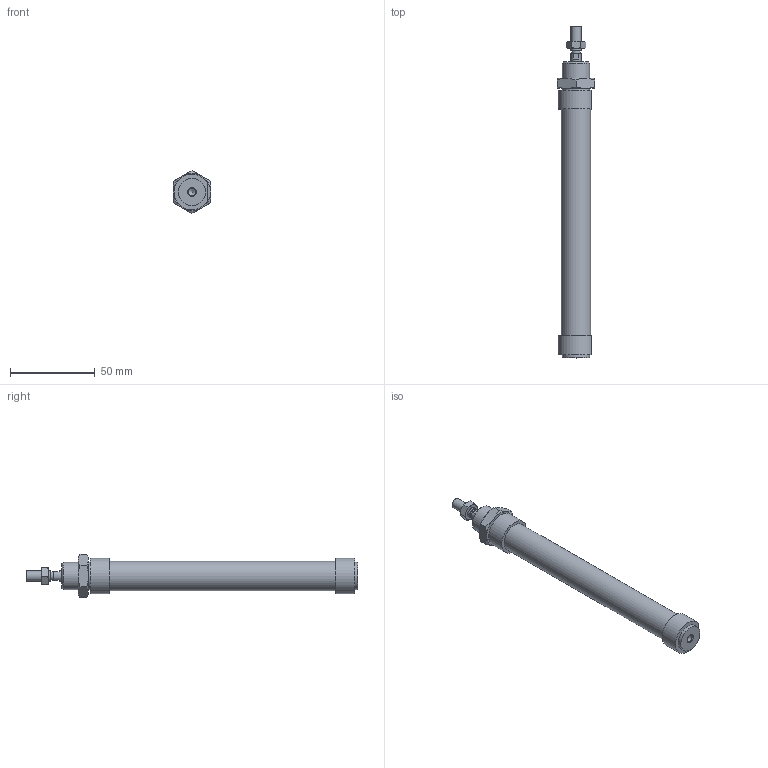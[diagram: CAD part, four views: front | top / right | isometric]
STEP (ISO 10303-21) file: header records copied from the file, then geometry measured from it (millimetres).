
FILE_DESCRIPTION((''),'2;1');
FILE_NAME('I:\Area Tecnica\Disegni\VARIE-3D\Componenti\1280\1281_##_####_#\1281_16_0100.iam.stp','2009-06-04T09:38:37',(''),(''),'Autodesk Inventor 2010','Autodesk Inventor 2010','');
FILE_SCHEMA(('AUTOMOTIVE_DESIGN { 1 0 10303 214 1 1 1 1 }'));
Length unit declared in the file: millimetre
Products named in the file (5): 1281_16_0100; C1281_16_100; S1280_16_100; 1200_16_05; 1200_16_06
Assembly tree (4 placements, depth 2):
  1281_16_0100
    C1281_16_100
    S1280_16_100
    1200_16_05
    1200_16_06
Bounding box: 22 x 196 x 25.4 mm (x, y, z)
Volume: 44388.3 mm3; surface area: 17443.3 mm2
Topology: 4 solids, 4 shells, 83 faces, 169 edges, 102 vertices
Faces by surface type: plane 34, cone 26, bspline 14, cylinder 9
Full cylindrical faces by diameter (mm): 5 x1, 6 x3, 16 x2, 17.2 x1
Entity records: 2370 total; most frequent: CARTESIAN_POINT 636, DIRECTION 314, ORIENTED_EDGE 284, AXIS2_PLACEMENT_3D 142, EDGE_CURVE 142, EDGE_LOOP 116, VERTEX_POINT 96, STYLED_ITEM 87
